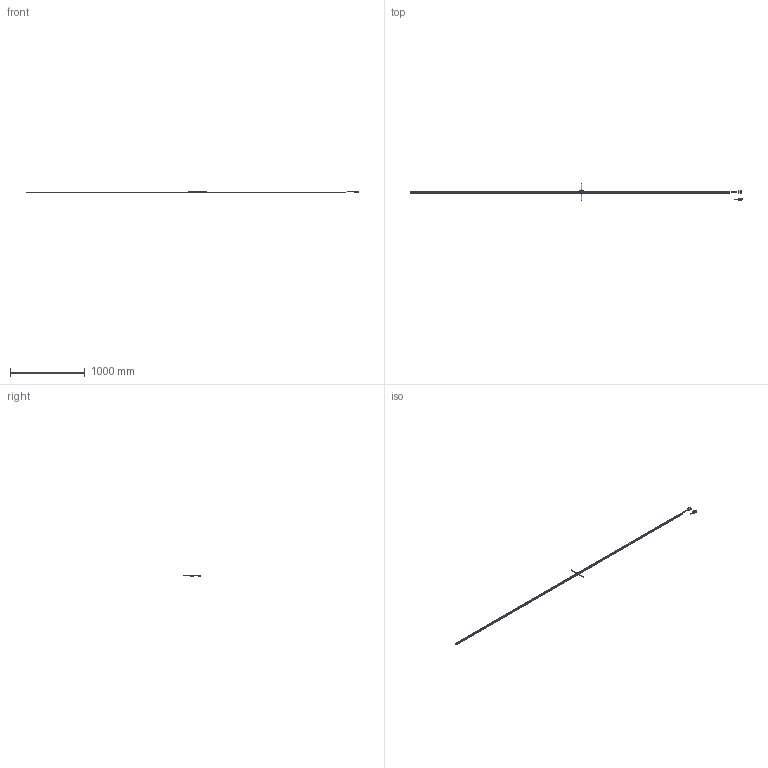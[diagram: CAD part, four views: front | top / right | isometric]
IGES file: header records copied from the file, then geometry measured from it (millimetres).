
Start section: Elysium IGES Interface
Global section: file name: 78H\\Utsu119s\kiyo_cad\data\3D\ST700_小型\HP掲載用_201802\PKG\ABS_ST700-4200A.igs; native system: Creo Elements/Direct Modeling 18.1B  29-Sep-2012; preprocessor: Creo Element/Direct IGES_3D V2.2; author: Unknown; organization: Unknown; date: 20180214.132444; units: millimetre
Bounding box: 4444.5 x 227.7 x 23.3 mm (x, y, z)
Volume: 865888.3 mm3; surface area: 319582.5 mm2
Topology: 7 solids, 7 shells, 6910 faces, 18897 edges, 12427 vertices
Faces by surface type: bspline 6910
